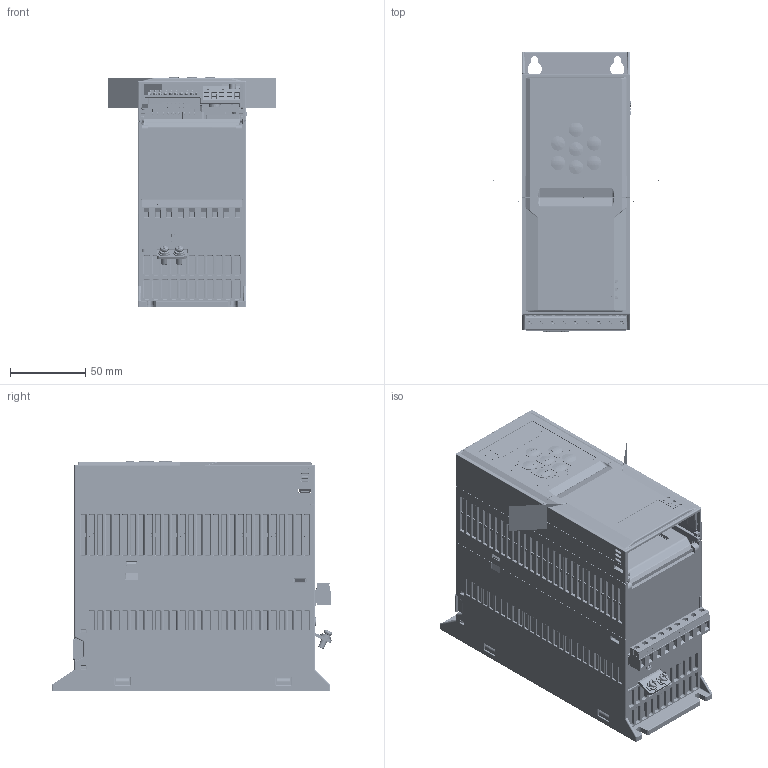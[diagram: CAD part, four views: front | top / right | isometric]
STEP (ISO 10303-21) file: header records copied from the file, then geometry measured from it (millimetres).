
FILE_DESCRIPTION((''),'2;1');
FILE_NAME('D1-DRIVE_REV00_ASM','2022-03-02T10:13:56',('wendong.luo'),(''),'CREO PARAMETRIC BY PTC INC, 2018100','CREO PARAMETRIC BY PTC INC, 2018100','');
FILE_SCHEMA(('CONFIG_CONTROL_DESIGN','GEOMETRIC_VALIDATION_PROPERTIES_MIM'));
Products named in the file (20): D1_MECHANICAL_PART; E0400012; E0400005; M0202003; E0400004; D1-PU_ASM; M0104033; E0100084; E0400023; E0400008; E0400009; E0400001; E0400011; E0100084_ASM; M0203006; M0203025; M0203032; M0104034; CU_NEW_ASM; D1-DRIVE_REV00_ASM
Assembly tree (21 placements, depth 4):
  D1-DRIVE_REV00_ASM
    D1-PU_ASM
      D1_MECHANICAL_PART
      E0400012
      E0400005
      M0202003  x2
      E0400004
    CU_NEW_ASM
      M0104033
      E0100084_ASM
        E0100084
        E0400023
        E0400008
        E0400009  x2
        E0400001
        E0400011
      M0203006
      M0203025
      M0203032
      M0104034
Bounding box: 111.51 x 186.34 x 152.85 mm (x, y, z)
Volume: 1203539.5 mm3; surface area: 332128.8 mm2
Topology: 20 solids, 46 shells, 16307 faces, 42874 edges, 27449 vertices
Faces by surface type: plane 8786, cylinder 3100, bspline 2072, extrusion 1616, cone 419, torus 180, sphere 134
Entity records: 725845 total; most frequent: CARTESIAN_POINT 218882, ORIENTED_EDGE 80544, DIRECTION 61697, PRESENTATION_STYLE_ASSIGNMENT 41774, EDGE_CURVE 40284, STYLED_ITEM 39351, CURVE_STYLE 38531, VECTOR 26869
